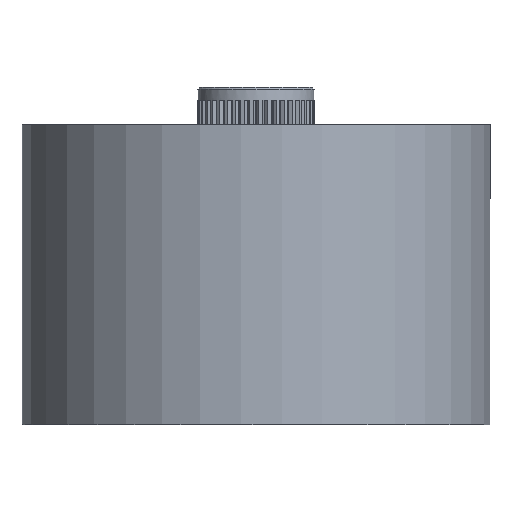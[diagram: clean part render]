
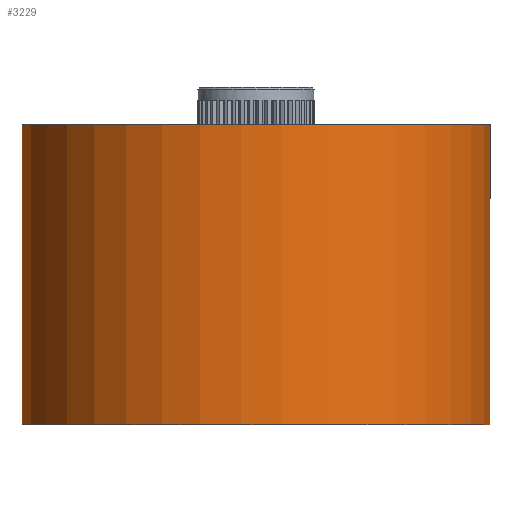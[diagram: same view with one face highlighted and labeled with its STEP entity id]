
A CAD part, front view. The second image highlights one B-rep face of the part: STEP entity #3229.
In plain terms, the highlighted cylindrical face has radius 16 mm (diameter 32 mm), a full revolution.
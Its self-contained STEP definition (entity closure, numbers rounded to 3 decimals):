
#2368=CARTESIAN_POINT('',(8.884,13.307,13.856));
#2369=VERTEX_POINT('',#2368);
#2370=CARTESIAN_POINT('',(0.,0.,13.856));
#2371=DIRECTION('',(0.0,0.0,-1.0));
#2372=DIRECTION('',(-0.555,-0.832,0.0));
#2373=AXIS2_PLACEMENT_3D('',#2370,#2371,#2372);
#2374=CIRCLE('',#2373,16.0);
#2375=EDGE_CURVE('',#2369,#2369,#2374,.F.);
#3210=CARTESIAN_POINT('',(0.,0.,-6.604));
#3211=DIRECTION('',(0.0,0.0,1.0));
#3212=DIRECTION('',(-0.555,-0.832,0.0));
#3213=AXIS2_PLACEMENT_3D('',#3210,#3211,#3212);
#3214=CYLINDRICAL_SURFACE('',#3213,16.0);
#3215=ORIENTED_EDGE('',*,*,#2375,.F.);
#3216=EDGE_LOOP('',(#3215));
#3217=FACE_OUTER_BOUND('',#3216,.T.);
#3218=CARTESIAN_POINT('',(8.884,13.307,-6.604));
#3219=VERTEX_POINT('',#3218);
#3220=CARTESIAN_POINT('',(0.,0.,-6.604));
#3221=DIRECTION('',(0.0,0.0,1.0));
#3222=DIRECTION('',(-0.555,-0.832,0.0));
#3223=AXIS2_PLACEMENT_3D('',#3220,#3221,#3222);
#3224=CIRCLE('',#3223,16.0);
#3225=EDGE_CURVE('',#3219,#3219,#3224,.F.);
#3226=ORIENTED_EDGE('',*,*,#3225,.F.);
#3227=EDGE_LOOP('',(#3226));
#3228=FACE_BOUND('',#3227,.T.);
#3229=ADVANCED_FACE('',(#3217,#3228),#3214,.T.);
